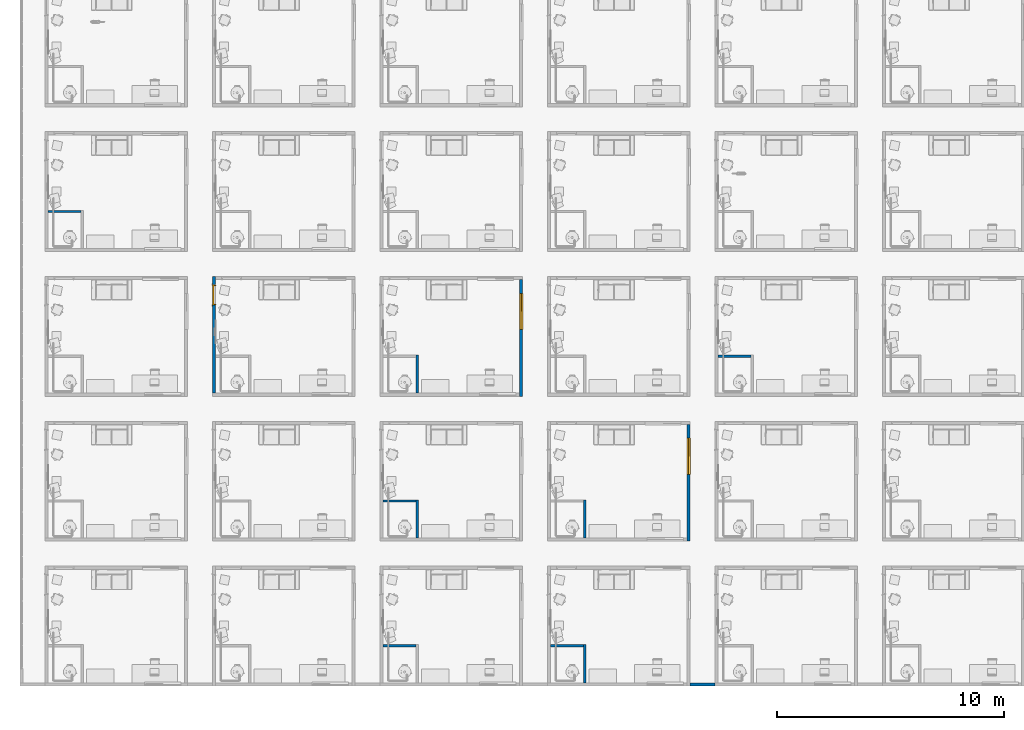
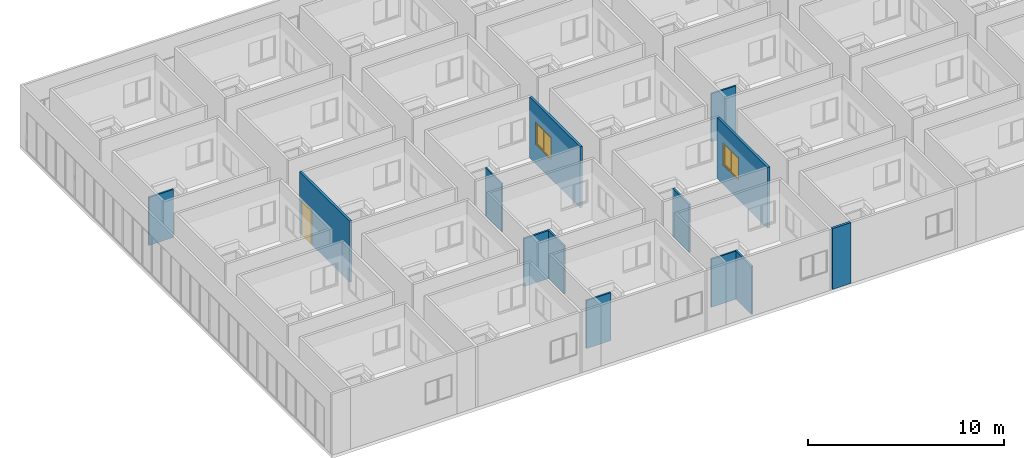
# One storey, part 7 of 71: 13 walls, 2 windows, 1 door, 3 openings.
"""IFC4 building model written with IfcOpenShell, lengths in centimetres."""

from ifc_helpers import new_model, entity, si_unit, converted_unit, derived_unit, direction, frame, origin, place, context, subcontext, project, spatial, indexed_curve, outline, extrude, polygons, source, transform, mapped, material, constituent, constituent_set, type_object, type_shapes, element, fill, save


model = new_model("IFC4")

# Units and contexts
model_context = context("Model", 3, precision=0.001, world=origin(), true_north=direction((6.123233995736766e-17, 1.0)))
body_context = subcontext(model_context, "Body", "Model", "MODEL_VIEW")
ifc_project = project(units=[si_unit("LENGTHUNIT", "METRE", prefix="CENTI"), si_unit("AREAUNIT", "SQUARE_METRE"), si_unit("VOLUMEUNIT", "CUBIC_METRE"), derived_unit("THERMALTRANSMITTANCEUNIT", [(si_unit("MASSUNIT", "GRAM", prefix="KILO"), 1), (si_unit("THERMODYNAMICTEMPERATUREUNIT", "KELVIN"), -1), (si_unit("TIMEUNIT", "SECOND"), -3)]), converted_unit("PLANEANGLEUNIT", "DEGREE", entity("IfcPlaneAngleMeasure", 0.017453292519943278), si_unit("PLANEANGLEUNIT", "RADIAN"), dimensions=[0, 0, 0, 0, 0, 0, 0]), derived_unit("MASSDENSITYUNIT", [(si_unit("MASSUNIT", "GRAM", prefix="KILO"), 1), (si_unit("LENGTHUNIT", "METRE"), -3)]), derived_unit("VAPORPERMEABILITYUNIT", [(si_unit("LENGTHUNIT", "METRE"), -1), (si_unit("TIMEUNIT", "SECOND"), 1)]), derived_unit("USERDEFINED", [(si_unit("MASSUNIT", "GRAM", prefix="KILO"), 1), (si_unit("TIMEUNIT", "SECOND"), -3), (si_unit("LENGTHUNIT", "METRE"), 3), (si_unit("ELECTRICCURRENTUNIT", "AMPERE"), -2)]), derived_unit("SPECIFICHEATCAPACITYUNIT", [(si_unit("THERMODYNAMICTEMPERATUREUNIT", "KELVIN"), -1), (si_unit("LENGTHUNIT", "METRE"), 2), (si_unit("TIMEUNIT", "SECOND"), -2)]), derived_unit("THERMALCONDUCTANCEUNIT", [(si_unit("MASSUNIT", "GRAM", prefix="KILO"), 1), (si_unit("THERMODYNAMICTEMPERATUREUNIT", "KELVIN"), -1), (si_unit("TIMEUNIT", "SECOND"), -3), (si_unit("LENGTHUNIT", "METRE"), 1)]), si_unit("PRESSUREUNIT", "PASCAL"), derived_unit("MODULUSOFELASTICITYUNIT", [(si_unit("MASSUNIT", "GRAM", prefix="KILO"), 1), (si_unit("LENGTHUNIT", "METRE"), -1), (si_unit("TIMEUNIT", "SECOND"), -2)]), derived_unit("THERMALEXPANSIONCOEFFICIENTUNIT", [(si_unit("THERMODYNAMICTEMPERATUREUNIT", "KELVIN"), -1)])], contexts=[model_context])

# Site, building, storey
site_placement = place(None, origin())
site = spatial("IfcSite", under=ifc_project, at=site_placement, Name="Default", CompositionType="ELEMENT")
building_placement = place(site_placement, origin())
building = spatial("IfcBuilding", under=site, at=building_placement, Name="IDS Escape Game Building", CompositionType="ELEMENT")
storey_placement = place(building_placement, frame((0.0, 0.0, 400.0)))
storey = spatial("IfcBuildingStorey", under=building, at=storey_placement, Name="01_First Floor", CompositionType="ELEMENT", Elevation=399.99999999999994)

# Wall, opening, window
ifc_material_1 = material(Name="ARC_FME.g2_Fg2 Masonry_00_gen_BERSnl", Category="g - klei")
wall_type_1 = type_object("IfcWallType", Name="Basic Wall:ARC_22.10_WA_LB_SB14_gen_BERSnl", PredefinedType="STANDARD")
wall_1_placement = place(storey_placement, frame((2828.0, 637.0, 0.0), z_axis=(0.0, 0.0, 1.0), x_axis=(0.0, 1.0, 0.0)))
wall_1 = element("IfcWall", 1, at=wall_1_placement, inside=storey, type_object=wall_type_1, material=ifc_material_1, Name="Basic Wall:ARC_22.10_WA_LB_SB14_gen_BERSnl", ObjectType="Basic Wall:ARC_22.10_WA_LB_SB14_gen_BERSnl", PredefinedType="NOTDEFINED", context=body_context, shape_type="Tessellation", body=[
    polygons([(0.0, -6.999999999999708, 0.0), (514.0, -6.999999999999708, 0.0), (514.0, -6.999999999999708, 379.9999999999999), (0.0, -6.999999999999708, 379.9999999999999), (454.0000000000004, -6.999999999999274, 260.0000000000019), (454.0000000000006, -6.999999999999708, 120.0), (294.00000000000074, -6.999999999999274, 120.0), (294.00000000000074, -6.999999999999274, 260.0000000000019), (454.0000000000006, 7.000000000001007, 120.0), (454.0000000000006, 7.000000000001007, 260.0000000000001), (294.00000000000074, 7.000000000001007, 260.0000000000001), (294.00000000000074, 7.000000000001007, 120.0), (0.0, 6.999999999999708, 0.0), (0.0, 6.999999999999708, 379.9999999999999), (13.999999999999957, 7.000000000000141, 380.0), (514.0, 6.999999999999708, 379.9999999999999), (514.0, 6.999999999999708, 0.0), (13.999999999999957, 7.000000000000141, 0.0)], [[[1, 2, 3, 4], [5, 6, 7, 8]], [[13, 14, 15, 16, 17, 18], [9, 10, 11, 12]], [[2, 1, 13, 18, 17]], [[4, 3, 16, 15, 14]], [[10, 9, 6, 5]], [[7, 12, 11, 8]], [[10, 5, 8, 11]], [[12, 7, 6, 9]], [[1, 4, 14, 13]], [[3, 2, 17, 16]]], closed=True),
])
opening_1_placement = place(wall_1_placement, frame((-637.0, 2828.0, 120.0), z_axis=(0.0, 0.0, 1.0), x_axis=(0.0, -1.0, 0.0)))
opening_1 = element("IfcOpeningElement", 2, at=opening_1_placement, cuts=wall_1, Name="Basic Wall:ARC_22.10_WA_LB_SB14_gen_BERSnl", PredefinedType="OPENING", context=body_context, shape_type="Tessellation", body=[
    polygons([(2821.0, 1091.0, 0.0), (2821.0, 1091.0, -1.0), (2816.0000000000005, 1091.0, -1.0), (2816.0000000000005, 1091.0, 0.0), (2821.0, 931.0, 0.0), (2816.0000000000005, 931.0, 0.0), (2816.0000000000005, 931.0, -1.0), (2821.0, 931.0, -1.0), (2820.9999999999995, 1086.0, 0.0), (2821.0, 936.0, 0.0), (2816.0000000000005, 936.0, 0.0), (2815.9999999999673, 936.0, 134.99999999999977), (2815.9999999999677, 1086.0, 134.99999999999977), (2816.0000000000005, 1086.0, 0.0), (2840.036825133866, 1090.9999999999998, 0.0), (2820.999999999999, 1091.0, 0.0), (2820.999999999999, 1091.0, 140.00000000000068), (2840.036825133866, 1091.0, 140.00000000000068), (2840.036825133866, 931.0, 140.0000000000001), (2820.999999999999, 931.0, 140.0000000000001), (2820.999999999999, 931.0, 0.0), (2840.036825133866, 931.0, 0.0), (2820.999999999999, 1086.0, 134.99999999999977), (2820.999999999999, 936.0, 134.99999999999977)], [[[1, 2, 3, 4]], [[5, 6, 7, 8]], [[1, 9, 10, 5, 8, 2]], [[2, 8, 7, 3]], [[3, 7, 6, 11, 12, 13, 14, 4]], [[4, 14, 9, 1]], [[15, 16, 17, 18]], [[19, 20, 21, 22]], [[18, 17, 20, 19]], [[18, 19, 22, 15]], [[17, 16, 9, 23, 24, 10, 21, 20]], [[22, 21, 10, 9, 16, 15]], [[11, 10, 24, 12]], [[13, 23, 9, 14]], [[12, 24, 23, 13]], [[5, 10, 11, 6]]], closed=True),
])
ifc_material_2 = material(Name="<Unnamed>")
ifc_constituent_1 = constituent(ifc_material_2, Name="<Unnamed>", fraction=0.0)
ifc_material_3 = material(Name="ARC_FME.o1_glass_00_gen_BERSnl", Category="o - glas")
ifc_constituent_2 = constituent(ifc_material_3, Name="ARC_FME.o1_glass_00_gen_BERSnl", Category="o - glas", fraction=1.0)
ifc_constituent_set_1 = constituent_set(constituents=[ifc_constituent_1, ifc_constituent_2])
ifc_constituent_3 = constituent(ifc_material_2, Name="BE Tablet", fraction=0.0)
ifc_constituent_4 = constituent(ifc_material_2, Name="Frame/Mullion", fraction=0.0)
ifc_constituent_5 = constituent(ifc_material_3, Name="Glass", Category="o - glas", fraction=1.0)
ifc_constituent_set_2 = constituent_set(constituents=[ifc_constituent_3, ifc_constituent_4, ifc_constituent_5])
window_type = type_object("IfcWindowType", Name="ARC_31_WI_WB_Dubbel Raam-Recht-Vast en Draaiend_gen_BERSnl:Links-Draaiend / Rechts-Draaiend", PartitioningType="NOTDEFINED", PredefinedType="WINDOW", material=ifc_constituent_set_2)
shared_shape_1 = source(origin(), body_context, "Body", "Tessellation", [
    extrude(outline(indexed_curve([(-80.00000000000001, -4.999999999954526), (80.00000000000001, -4.999999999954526), (80.00000000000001, 4.999999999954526), (-80.00000000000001, 4.999999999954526), (-80.00000000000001, -4.999999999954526)], self_intersect=False)), frame((80.0, 7.036825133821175, 1.0), z_axis=(0.0, 0.0, 1.0), x_axis=(-1.0, 0.0, 0.0)), (0.0, 0.0, 1.0), 2.000000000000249),
    extrude(outline(indexed_curve([(-2.9999999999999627, -3.000000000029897), (-7.656209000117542e-14, -3.000000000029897), (-7.064016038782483e-14, 5.979964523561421e-11), (3.0000000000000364, 5.978991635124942e-11), (3.0000000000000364, 2.9999999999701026), (-2.9999999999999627, 2.9999999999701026), (-2.9999999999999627, -3.000000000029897)], self_intersect=False)), frame((80.0, 15.03682513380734, 7.0)), (0.0, 0.0, 1.0), 128.00000000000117),
    extrude(outline(indexed_curve([(-35.499999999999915, -1.2000000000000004), (35.499999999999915, -1.2000000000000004), (35.49999999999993, 1.2), (-35.499999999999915, 1.2), (-35.499999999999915, -1.2000000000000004)], self_intersect=False)), frame((41.50000000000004, 15.036825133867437, 7.0), z_axis=(0.0, 0.0, 1.0), x_axis=(-1.0, 0.0, 0.0)), (0.0, 0.0, 1.0), 128.000000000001),
    extrude(outline(indexed_curve([(-67.00000000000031, -38.500000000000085), (67.00000000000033, -38.5000000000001), (67.00000000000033, 38.50000000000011), (-67.00000000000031, 38.50000000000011), (-67.00000000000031, -38.500000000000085)], self_intersect=False), holes=[indexed_curve([(61.00000000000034, -32.50000000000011), (-61.00000000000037, -32.500000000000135), (-61.00000000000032, 32.50000000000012), (61.00000000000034, 32.50000000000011), (61.00000000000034, -32.50000000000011)], self_intersect=False)]), frame((118.5, 9.03682513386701, 71.0), z_axis=(0.0, 1.0, 0.0), x_axis=(0.0, 0.0, -1.0)), (0.0, 0.0, 1.0), 6.0),
    extrude(outline(indexed_curve([(-32.500000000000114, -1.2000000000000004), (32.500000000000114, -1.2000000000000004), (32.500000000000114, 1.2000000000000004), (-32.500000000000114, 1.2000000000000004), (-32.500000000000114, -1.2000000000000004)], self_intersect=False)), frame((118.5, 12.036825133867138, 10.0), z_axis=(0.0, 0.0, 1.0), x_axis=(-1.0, 0.0, 0.0)), (0.0, 0.0, 1.0), 122.00000000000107),
    polygons([(160.00000000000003, 18.03682513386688, 141.00000000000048), (160.00000000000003, 18.03682513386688, 1.0000000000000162), (4.0607517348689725e-14, 18.036825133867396, 1.0000000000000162), (4.0607517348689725e-14, 18.036825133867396, 141.00000000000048), (6.000000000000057, 18.03682513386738, 135.00000000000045), (6.000000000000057, 18.03682513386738, 7.000000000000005), (76.99999999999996, 18.03682513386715, 7.000000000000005), (154.00000000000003, 18.0368251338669, 7.000000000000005), (154.00000000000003, 18.0368251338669, 135.00000000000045), (76.99999999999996, 18.03682513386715, 135.00000000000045), (160.0, 12.03682513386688, 141.00000000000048), (160.0, 12.03682513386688, 1.0000000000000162), (2.7071678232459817e-14, 12.036825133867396, 1.0000000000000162), (2.7071678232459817e-14, 12.036825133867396, 141.00000000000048), (6.000000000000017, 12.036825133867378, 135.00000000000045), (6.000000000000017, 12.036825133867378, 7.000000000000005), (76.99999999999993, 12.036825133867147, 7.000000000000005), (79.99999999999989, 12.036825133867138, 7.000000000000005), (79.9999999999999, 15.036825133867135, 7.000000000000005), (154.00000000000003, 15.0368251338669, 7.000000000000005), (154.00000000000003, 15.036825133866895, 135.00000000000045), (76.99999999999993, 12.036825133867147, 135.00000000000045), (79.99999999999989, 12.036825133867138, 135.00000000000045), (79.99999999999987, 12.036825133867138, 138.00000000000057), (157.00000000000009, 12.036825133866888, 138.00000000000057), (157.00000000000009, 12.036825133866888, 3.9999999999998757), (79.99999999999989, 12.036825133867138, 3.9999999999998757), (157.0000000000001, 15.036825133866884, 3.9999999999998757), (157.0000000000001, 15.036825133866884, 138.00000000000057), (79.99999999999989, 15.036825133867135, 3.9999999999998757), (79.99999999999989, 15.036825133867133, 138.00000000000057), (79.99999999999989, 15.036825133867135, 135.00000000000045)], [[[1, 2, 3, 4], [5, 6, 7, 8, 9, 10]], [[2, 1, 11, 12]], [[3, 2, 12, 13]], [[4, 3, 13, 14]], [[6, 5, 15, 16]], [[6, 16, 17, 18, 19, 20, 8, 7]], [[9, 8, 20, 21]], [[11, 14, 13, 12], [16, 15, 22, 23, 24, 25, 26, 27, 18, 17]], [[28, 26, 25, 29]], [[30, 27, 26, 28]], [[31, 24, 23, 32]], [[30, 28, 29, 31, 32, 21, 20, 19]], [[1, 4, 14, 11]], [[15, 5, 10, 9, 21, 32, 23, 22]], [[24, 31, 29, 25]], [[27, 30, 19, 18]]], closed=True),
])
type_shapes(window_type, [shared_shape_1])
window_1_placement = place(opening_1_placement, frame((2840.036825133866, 931.0, -1.0), z_axis=(0.0, 0.0, 1.0), x_axis=(0.0, 1.0, 0.0)))
window_1 = element("IfcWindow", 3, at=window_1_placement, inside=storey, type_object=window_type, material=ifc_constituent_set_1, Name="ARC_31_WI_WB_Dubbel Raam-Recht-Vast en Draaiend_gen_BERSnl:Links-Draaiend / Rechts-Draaiend", ObjectType="ARC_31_WI_WB_Dubbel Raam-Recht-Vast en Draaiend_gen_BERSnl:Links-Draaiend / Rechts-Draaiend", OverallHeight=140.00000000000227, OverallWidth=160.0000000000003, PartitioningType="NOTDEFINED", PredefinedType="WINDOW", context=body_context, shape_type="MappedRepresentation", body=[
    mapped(shared_shape_1, transform((0.0, 0.0, 0.0), scale=1.0)),
])
fill(opening_1, window_1)

# Wall, opening, door
wall_2_placement = place(storey_placement, frame((738.0, 1803.0, 0.0), z_axis=(0.0, 0.0, 1.0), x_axis=(0.0, -1.0, 0.0)))
wall_2 = element("IfcWall", 4, at=wall_2_placement, inside=storey, type_object=wall_type_1, material=ifc_material_1, Name="Basic Wall:ARC_22.10_WA_LB_SB14_gen_BERSnl", ObjectType="Basic Wall:ARC_22.10_WA_LB_SB14_gen_BERSnl", PredefinedType="NOTDEFINED", context=body_context, shape_type="Tessellation", body=[
    polygons([(514.0000000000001, -6.9999999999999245, 379.9999999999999), (2.1657342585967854e-13, -6.9999999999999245, 379.9999999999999), (2.1657342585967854e-13, -6.9999999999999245, 0.0), (35.99999999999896, -6.9999999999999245, 0.0), (35.99999999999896, -6.9999999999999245, 215.00000000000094), (125.99999999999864, -6.9999999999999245, 215.00000000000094), (125.99999999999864, -6.9999999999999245, 0.0), (514.0000000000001, -6.9999999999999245, 0.0), (2.1657342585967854e-13, 7.000000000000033, 379.9999999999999), (14.000000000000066, 7.000000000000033, 380.0), (514.0000000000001, 7.000000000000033, 379.9999999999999), (514.0000000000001, 7.000000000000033, 0.0), (355.9999999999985, 7.000000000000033, 0.0), (345.9999999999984, 7.000000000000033, 0.0), (125.99999999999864, 7.000000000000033, 0.0), (125.99999999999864, 7.000000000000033, 215.00000000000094), (35.99999999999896, 7.000000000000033, 215.00000000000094), (35.99999999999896, 7.000000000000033, 0.0), (14.000000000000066, 7.000000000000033, 0.0), (2.1657342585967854e-13, 7.000000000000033, 0.0)], [[[1, 2, 3, 4, 5, 6, 7, 8]], [[9, 10, 11, 12, 13, 14, 15, 16, 17, 18, 19, 20]], [[3, 20, 19, 18, 4]], [[2, 1, 11, 10, 9]], [[17, 5, 4, 18]], [[6, 16, 15, 7]], [[5, 17, 16, 6]], [[3, 2, 9, 20]], [[1, 8, 12, 11]], [[12, 8, 7, 15, 14, 13]]], closed=True),
])
opening_2_placement = place(wall_2_placement, frame((1803.0, -738.0, 0.0), z_axis=(0.0, 0.0, 1.0), x_axis=(0.0, 1.0, 0.0)))
opening_2 = element("IfcOpeningElement", 5, at=opening_2_placement, cuts=wall_2, Name="Basic Wall:ARC_22.10_WA_LB_SB14_gen_BERSnl", PredefinedType="OPENING", context=body_context, shape_type="SweptSolid", body=[
    extrude(outline(indexed_curve([(-137.49999999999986, -44.99999999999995), (137.49999999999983, -44.99999999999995), (137.49999999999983, 44.99999999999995), (-137.49999999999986, 44.99999999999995), (-137.49999999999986, -44.99999999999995)], self_intersect=False)), frame((648.0, 1722.0, 77.50000000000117), z_axis=(1.0, 0.0, 0.0), x_axis=(0.0, 0.0, 1.0)), (0.0, 0.0, 1.0), 165.99999999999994),
])
ifc_material_4 = material(Name="ARC_FME.i3_wood_00_gen_BERSnl", Category="i - hout")
door_type = type_object("IfcDoorType", Name="ARC_32.30_DO_WB_binnendeur enkel draaiend met void_gen_BERSnl:Fire Exit_830x2115_EI60", OperationType="SINGLE_SWING_RIGHT", PredefinedType="DOOR", material=ifc_material_4)
shared_shape_2 = source(origin(), body_context, "Body", "Tessellation", [
    extrude(outline(indexed_curve([(-41.49999999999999, -3.749999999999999), (41.49999999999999, -3.749999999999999), (41.49999999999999, 3.75), (-41.49999999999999, 3.75), (-41.49999999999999, -3.749999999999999)], self_intersect=False)), frame((45.0, 79.24999999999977, 60.0), z_axis=(0.0, 0.0, 1.0), x_axis=(-1.0, 0.0, 0.0)), (0.0, 0.0, 1.0), 211.50000000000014),
    polygons([(88.99999999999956, 82.99999999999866, 59.999999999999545), (88.9999999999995, 67.99999999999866, 59.999999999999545), (94.99999999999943, 67.99999999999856, 59.999999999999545), (94.99999999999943, 66.49999999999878, 59.999999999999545), (84.99999999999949, 66.4999999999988, 59.999999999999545), (84.99999999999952, 75.49999999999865, 59.999999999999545), (86.49999999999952, 75.49999999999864, 59.999999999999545), (86.49999999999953, 84.49999999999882, 59.999999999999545), (94.99999999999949, 84.49999999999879, 59.999999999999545), (94.99999999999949, 82.99999999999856, 59.999999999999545), (88.99999999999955, 82.99999999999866, 274.0000000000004), (88.9999999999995, 67.99999999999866, 274.0000000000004), (0.9999999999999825, 67.99999999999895, 274.0000000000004), (0.9999999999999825, 67.99999999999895, 59.99999999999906), (-4.999999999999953, 67.99999999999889, 59.99999999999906), (-4.999999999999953, 67.99999999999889, 280.00000000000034), (94.99999999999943, 67.99999999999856, 280.00000000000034), (94.99999999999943, 66.49999999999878, 280.00000000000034), (-4.999999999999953, 66.4999999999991, 280.00000000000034), (-4.999999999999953, 66.4999999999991, 59.99999999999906), (4.999999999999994, 66.49999999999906, 59.99999999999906), (4.999999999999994, 66.49999999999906, 270.00000000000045), (84.99999999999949, 66.4999999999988, 270.00000000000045), (84.99999999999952, 75.49999999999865, 270.00000000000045), (5.000000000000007, 75.4999999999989, 270.00000000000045), (5.0, 75.4999999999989, 59.99999999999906), (3.5000000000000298, 75.4999999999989, 59.99999999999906), (3.500000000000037, 75.4999999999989, 271.50000000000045), (86.4999999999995, 75.49999999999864, 271.50000000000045), (86.49999999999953, 84.49999999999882, 271.50000000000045), (3.5000000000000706, 84.49999999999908, 271.50000000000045), (3.500000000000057, 84.49999999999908, 59.99999999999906), (-4.999999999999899, 84.4999999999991, 59.99999999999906), (-4.999999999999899, 84.4999999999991, 280.00000000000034), (94.99999999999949, 84.49999999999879, 280.00000000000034), (94.99999999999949, 82.99999999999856, 280.00000000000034), (-4.999999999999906, 82.99999999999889, 280.00000000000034), (-4.999999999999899, 82.99999999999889, 59.99999999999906), (1.0000000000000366, 82.99999999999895, 59.99999999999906), (1.0000000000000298, 82.99999999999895, 274.0000000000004)], [[[1, 2, 3, 4, 5, 6, 7, 8, 9, 10]], [[2, 1, 11, 12]], [[3, 2, 12, 13, 14, 15, 16, 17]], [[4, 3, 17, 18]], [[5, 4, 18, 19, 20, 21, 22, 23]], [[6, 5, 23, 24]], [[7, 6, 24, 25, 26, 27, 28, 29]], [[8, 7, 29, 30]], [[9, 8, 30, 31, 32, 33, 34, 35]], [[10, 9, 35, 36]], [[1, 10, 36, 37, 38, 39, 40, 11]], [[37, 34, 33, 38]], [[39, 38, 33, 32, 27, 26, 21, 20, 15, 14]], [[13, 40, 39, 14]], [[31, 28, 27, 32]], [[25, 22, 21, 26]], [[19, 16, 15, 20]], [[36, 35, 34, 37]], [[30, 29, 28, 31]], [[24, 23, 22, 25]], [[18, 17, 16, 19]], [[12, 11, 40, 13]]], closed=True),
])
type_shapes(door_type, [shared_shape_2])
door_placement = place(opening_2_placement, frame((814.0, 1677.0, -60.0), z_axis=(0.0, 0.0, 1.0), x_axis=(0.0, 1.0, 0.0)))
door = element("IfcDoor", 6, at=door_placement, inside=storey, type_object=door_type, material=ifc_material_4, Name="ARC_32.30_DO_WB_binnendeur enkel draaiend met void_gen_BERSnl:Fire Exit_830x2115_EI60", ObjectType="ARC_32.30_DO_WB_binnendeur enkel draaiend met void_gen_BERSnl:Fire Exit_830x2115_EI60", OverallHeight=274.99999999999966, OverallWidth=89.9999999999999, PredefinedType="DOOR", context=body_context, shape_type="MappedRepresentation", body=[
    mapped(shared_shape_2, transform((0.0, 0.0, 0.0), scale=1.0)),
])
fill(opening_2, door)

# Wall, opening, window
wall_3_placement = place(storey_placement, frame((2090.0, 1275.0, 0.0), z_axis=(0.0, 0.0, 1.0), x_axis=(0.0, 1.0, 0.0)))
wall_3 = element("IfcWall", 7, at=wall_3_placement, inside=storey, type_object=wall_type_1, material=ifc_material_1, Name="Basic Wall:ARC_22.10_WA_LB_SB14_gen_BERSnl", ObjectType="Basic Wall:ARC_22.10_WA_LB_SB14_gen_BERSnl", PredefinedType="NOTDEFINED", context=body_context, shape_type="Tessellation", body=[
    polygons([(0.0, -6.999999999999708, 0.0), (514.0000000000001, -6.999999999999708, 0.0), (514.0000000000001, -6.999999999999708, 379.9999999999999), (0.0, -6.999999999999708, 379.9999999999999), (454.00000000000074, -6.999999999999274, 260.0000000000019), (454.00000000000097, -6.999999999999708, 120.0), (294.00000000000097, -6.999999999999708, 120.0), (294.00000000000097, -6.999999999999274, 260.0000000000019), (454.00000000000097, 7.000000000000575, 120.0), (454.00000000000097, 7.000000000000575, 260.0000000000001), (294.00000000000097, 7.000000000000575, 260.0000000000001), (294.00000000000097, 7.000000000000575, 120.0), (0.0, 7.000000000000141, 0.0), (0.0, 7.000000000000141, 379.9999999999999), (14.000000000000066, 7.000000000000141, 380.0), (514.0000000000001, 7.000000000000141, 379.9999999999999), (514.0000000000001, 7.000000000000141, 0.0), (14.000000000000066, 7.000000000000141, 0.0)], [[[1, 2, 3, 4], [5, 6, 7, 8]], [[13, 14, 15, 16, 17, 18], [9, 10, 11, 12]], [[2, 1, 13, 18, 17]], [[4, 3, 16, 15, 14]], [[10, 9, 6, 5]], [[7, 12, 11, 8]], [[10, 5, 8, 11]], [[12, 7, 6, 9]], [[1, 4, 14, 13]], [[3, 2, 17, 16]]], closed=True),
])
opening_3_placement = place(wall_3_placement, frame((-1275.0, 2090.0, 120.0), z_axis=(0.0, 0.0, 1.0), x_axis=(0.0, -1.0, 0.0)))
opening_3 = element("IfcOpeningElement", 8, at=opening_3_placement, cuts=wall_3, Name="Basic Wall:ARC_22.10_WA_LB_SB14_gen_BERSnl", PredefinedType="OPENING", context=body_context, shape_type="Tessellation", body=[
    polygons([(2082.9999999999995, 1729.0000000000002, 0.0), (2082.9999999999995, 1729.0000000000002, -1.0), (2077.999999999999, 1729.0000000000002, -1.0), (2077.999999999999, 1729.0000000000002, 0.0), (2082.9999999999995, 1569.0000000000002, 0.0), (2077.999999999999, 1569.0000000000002, 0.0), (2077.999999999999, 1569.0000000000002, -1.0), (2082.9999999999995, 1569.0000000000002, -1.0), (2082.999999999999, 1724.0000000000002, 0.0), (2082.999999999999, 1574.0000000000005, 0.0), (2077.9999999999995, 1574.0000000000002, 0.0), (2077.9999999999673, 1574.0000000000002, 134.99999999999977), (2077.9999999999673, 1724.0000000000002, 134.99999999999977), (2077.9999999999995, 1724.0000000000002, 0.0), (2102.0368251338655, 1729.0000000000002, 0.0), (2082.999999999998, 1729.0000000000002, 0.0), (2082.9999999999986, 1729.0000000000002, 140.00000000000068), (2102.036825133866, 1729.0000000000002, 140.00000000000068), (2102.0368251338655, 1569.0000000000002, 140.0000000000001), (2082.999999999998, 1569.0000000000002, 140.0000000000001), (2082.9999999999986, 1569.0000000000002, 0.0), (2102.0368251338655, 1569.0000000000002, 0.0), (2082.9999999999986, 1724.0000000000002, 134.99999999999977), (2082.999999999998, 1574.0000000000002, 134.99999999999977)], [[[1, 2, 3, 4]], [[5, 6, 7, 8]], [[1, 9, 10, 5, 8, 2]], [[2, 8, 7, 3]], [[3, 7, 6, 11, 12, 13, 14, 4]], [[4, 14, 9, 1]], [[15, 16, 17, 18]], [[19, 20, 21, 22]], [[18, 17, 20, 19]], [[18, 19, 22, 15]], [[17, 16, 9, 23, 24, 10, 21, 20]], [[22, 21, 10, 9, 16, 15]], [[11, 10, 24, 12]], [[13, 23, 9, 14]], [[12, 24, 23, 13]], [[5, 10, 11, 6]]], closed=True),
])
ifc_constituent_6 = constituent(ifc_material_2, Name="<Unnamed>", fraction=0.0)
ifc_constituent_7 = constituent(ifc_material_3, Name="ARC_FME.o1_glass_00_gen_BERSnl", Category="o - glas", fraction=1.0)
ifc_constituent_set_3 = constituent_set(constituents=[ifc_constituent_6, ifc_constituent_7])
window_2_placement = place(opening_3_placement, frame((2102.0368251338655, 1569.0, -1.0), z_axis=(0.0, 0.0, 1.0), x_axis=(0.0, 1.0, 0.0)))
window_2 = element("IfcWindow", 9, at=window_2_placement, inside=storey, type_object=window_type, material=ifc_constituent_set_3, Name="ARC_31_WI_WB_Dubbel Raam-Recht-Vast en Draaiend_gen_BERSnl:Links-Draaiend / Rechts-Draaiend", ObjectType="ARC_31_WI_WB_Dubbel Raam-Recht-Vast en Draaiend_gen_BERSnl:Links-Draaiend / Rechts-Draaiend", OverallHeight=140.00000000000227, OverallWidth=160.0000000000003, PartitioningType="NOTDEFINED", PredefinedType="WINDOW", context=body_context, shape_type="MappedRepresentation", body=[
    mapped(shared_shape_1, transform((0.0, 0.0, 0.0), scale=1.0)),
])
fill(opening_3, window_2)

# Walls
wall_4_placement = place(storey_placement, frame((2945.0, 6.0, 0.0), z_axis=(0.0, 0.0, 1.0), x_axis=(-1.0, 0.0, 0.0)))
element("IfcWall", 10, at=wall_4_placement, inside=storey, type_object=wall_type_1, material=ifc_material_1, Name="Basic Wall:ARC_22.10_WA_LB_SB14_gen_BERSnl", ObjectType="Basic Wall:ARC_22.10_WA_LB_SB14_gen_BERSnl", PredefinedType="NOTDEFINED", context=body_context, shape_type="SweptSolid", body=[
    extrude(outline(indexed_curve([(110.00000000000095, 6.999999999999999), (-2.2611003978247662e-14, 7.0), (2.2611003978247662e-14, -6.999999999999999), (110.00000000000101, -6.999999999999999), (110.00000000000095, 6.999999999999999)], self_intersect=False)), origin(), (0.0, 0.0, 1.0), 380.0),
])
ifc_material_5 = material(Name="ARC_FME.r2_Plaster_white_gen_BERSnl", Category="r - klei, gips, magnesium en kunststof bindmiddelen")
wall_type_2 = type_object("IfcWallType", Name="Basic Wall:ARC_22.10_WA_LB_GPS10_gen_BERSnl", PredefinedType="STANDARD")
wall_5_placement = place(storey_placement, frame((1628.0, 176.0, 0.0), z_axis=(0.0, 0.0, 1.0), x_axis=(-1.0, 0.0, 0.0)))
element("IfcWall", 11, at=wall_5_placement, inside=storey, type_object=wall_type_2, material=ifc_material_5, Name="Basic Wall:ARC_22.10_WA_LB_GPS10_gen_BERSnl", ObjectType="Basic Wall:ARC_22.10_WA_LB_GPS10_gen_BERSnl", PredefinedType="NOTDEFINED", context=body_context, shape_type="SweptSolid", body=[
    extrude(outline(indexed_curve([(145.00000000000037, 5.000000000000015), (-1.6380951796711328e-14, 5.0), (1.6380951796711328e-14, -5.0), (145.00000000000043, -4.999999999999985), (145.00000000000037, 5.000000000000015)], self_intersect=False)), origin(), (0.0, 0.0, 1.0), 300.0),
])
wall_6_placement = place(storey_placement, frame((2371.0, 13.0, 0.0), z_axis=(0.0, 0.0, 1.0), x_axis=(0.0, 1.0, 0.0)))
element("IfcWall", 12, at=wall_6_placement, inside=storey, type_object=wall_type_2, material=ifc_material_5, Name="Basic Wall:ARC_22.10_WA_LB_GPS10_gen_BERSnl", ObjectType="Basic Wall:ARC_22.10_WA_LB_GPS10_gen_BERSnl", PredefinedType="NOTDEFINED", context=body_context, shape_type="SweptSolid", body=[
    extrude(outline(indexed_curve([(168.00000000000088, 4.9999999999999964), (-1.1881077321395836e-15, 5.0000000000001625), (-5.038721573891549e-16, -5.0000000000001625), (168.00000000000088, -5.000000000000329), (168.00000000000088, 4.9999999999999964)], self_intersect=False)), origin(), (0.0, 0.0, 1.0), 300.0),
])
wall_7_placement = place(storey_placement, frame((2366.0, 176.0, 0.0), z_axis=(0.0, 0.0, 1.0), x_axis=(-1.0, 0.0, 0.0)))
element("IfcWall", 13, at=wall_7_placement, inside=storey, type_object=wall_type_2, material=ifc_material_5, Name="Basic Wall:ARC_22.10_WA_LB_GPS10_gen_BERSnl", ObjectType="Basic Wall:ARC_22.10_WA_LB_GPS10_gen_BERSnl", PredefinedType="NOTDEFINED", context=body_context, shape_type="SweptSolid", body=[
    extrude(outline(indexed_curve([(144.99999999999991, 5.000000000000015), (-1.6380951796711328e-14, 5.0), (1.6380951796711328e-14, -5.0), (144.99999999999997, -4.999999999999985), (144.99999999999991, 5.000000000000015)], self_intersect=False)), origin(), (0.0, 0.0, 1.0), 300.0),
])
wall_8_placement = place(storey_placement, frame((1633.0, 651.0, 0.0), z_axis=(0.0, 0.0, 1.0), x_axis=(0.0, 1.0, 0.0)))
element("IfcWall", 14, at=wall_8_placement, inside=storey, type_object=wall_type_2, material=ifc_material_5, Name="Basic Wall:ARC_22.10_WA_LB_GPS10_gen_BERSnl", ObjectType="Basic Wall:ARC_22.10_WA_LB_GPS10_gen_BERSnl", PredefinedType="NOTDEFINED", context=body_context, shape_type="SweptSolid", body=[
    extrude(outline(indexed_curve([(168.00000000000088, 4.9999999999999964), (-7.956027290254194e-15, 4.999999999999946), (7.956027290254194e-15, -4.999999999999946), (168.00000000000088, -4.999999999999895), (168.00000000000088, 4.9999999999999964)], self_intersect=False)), origin(), (0.0, 0.0, 1.0), 300.0),
])
wall_9_placement = place(storey_placement, frame((1628.0, 814.0, 0.0), z_axis=(0.0, 0.0, 1.0), x_axis=(-1.0, 0.0, 0.0)))
element("IfcWall", 15, at=wall_9_placement, inside=storey, type_object=wall_type_2, material=ifc_material_5, Name="Basic Wall:ARC_22.10_WA_LB_GPS10_gen_BERSnl", ObjectType="Basic Wall:ARC_22.10_WA_LB_GPS10_gen_BERSnl", PredefinedType="NOTDEFINED", context=body_context, shape_type="SweptSolid", body=[
    extrude(outline(indexed_curve([(145.00000000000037, 4.99999999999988), (-1.6380951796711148e-14, 4.999999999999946), (1.6380951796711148e-14, -4.999999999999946), (145.00000000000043, -5.000000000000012), (145.00000000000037, 4.99999999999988)], self_intersect=False)), origin(), (0.0, 0.0, 1.0), 300.0),
])
wall_10_placement = place(storey_placement, frame((2371.0, 651.0, 0.0), z_axis=(0.0, 0.0, 1.0), x_axis=(0.0, 1.0, 0.0)))
element("IfcWall", 16, at=wall_10_placement, inside=storey, type_object=wall_type_2, material=ifc_material_5, Name="Basic Wall:ARC_22.10_WA_LB_GPS10_gen_BERSnl", ObjectType="Basic Wall:ARC_22.10_WA_LB_GPS10_gen_BERSnl", PredefinedType="NOTDEFINED", context=body_context, shape_type="SweptSolid", body=[
    extrude(outline(indexed_curve([(168.00000000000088, 4.9999999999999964), (-7.956027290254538e-15, 5.0000000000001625), (7.956027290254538e-15, -5.0000000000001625), (168.00000000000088, -5.000000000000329), (168.00000000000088, 4.9999999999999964)], self_intersect=False)), origin(), (0.0, 0.0, 1.0), 300.0),
])
wall_11_placement = place(storey_placement, frame((1633.0, 1289.0, 0.0), z_axis=(0.0, 0.0, 1.0), x_axis=(0.0, 1.0, 0.0)))
element("IfcWall", 17, at=wall_11_placement, inside=storey, type_object=wall_type_2, material=ifc_material_5, Name="Basic Wall:ARC_22.10_WA_LB_GPS10_gen_BERSnl", ObjectType="Basic Wall:ARC_22.10_WA_LB_GPS10_gen_BERSnl", PredefinedType="NOTDEFINED", context=body_context, shape_type="SweptSolid", body=[
    extrude(outline(indexed_curve([(168.00000000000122, 4.9999999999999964), (-7.956027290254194e-15, 4.999999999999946), (7.956027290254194e-15, -4.999999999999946), (168.00000000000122, -4.999999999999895), (168.00000000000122, 4.9999999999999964)], self_intersect=False)), origin(), (0.0, 0.0, 1.0), 300.0),
])
wall_12_placement = place(storey_placement, frame((3104.0, 1452.0, 0.0), z_axis=(0.0, 0.0, 1.0), x_axis=(-1.0, 0.0, 0.0)))
element("IfcWall", 18, at=wall_12_placement, inside=storey, type_object=wall_type_2, material=ifc_material_5, Name="Basic Wall:ARC_22.10_WA_LB_GPS10_gen_BERSnl", ObjectType="Basic Wall:ARC_22.10_WA_LB_GPS10_gen_BERSnl", PredefinedType="NOTDEFINED", context=body_context, shape_type="SweptSolid", body=[
    extrude(outline(indexed_curve([(144.99999999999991, 4.9999999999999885), (-1.6380951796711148e-14, 4.999999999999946), (1.6380951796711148e-14, -4.999999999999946), (144.99999999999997, -4.999999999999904), (144.99999999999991, 4.9999999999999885)], self_intersect=False)), origin(), (0.0, 0.0, 1.0), 300.0),
])
wall_13_placement = place(storey_placement, frame((152.0, 2090.0, 0.0), z_axis=(0.0, 0.0, 1.0), x_axis=(-1.0, 0.0, 0.0)))
element("IfcWall", 19, at=wall_13_placement, inside=storey, type_object=wall_type_2, material=ifc_material_5, Name="Basic Wall:ARC_22.10_WA_LB_GPS10_gen_BERSnl", ObjectType="Basic Wall:ARC_22.10_WA_LB_GPS10_gen_BERSnl", PredefinedType="NOTDEFINED", context=body_context, shape_type="SweptSolid", body=[
    extrude(outline(indexed_curve([(145.00000000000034, 5.000000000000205), (1.0690726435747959e-14, 5.0000000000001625), (-1.0690726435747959e-14, -5.0000000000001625), (145.00000000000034, -5.00000000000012), (145.00000000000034, 5.000000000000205)], self_intersect=False)), origin(), (0.0, 0.0, 1.0), 300.0),
])

save(model, "model.ifc")
